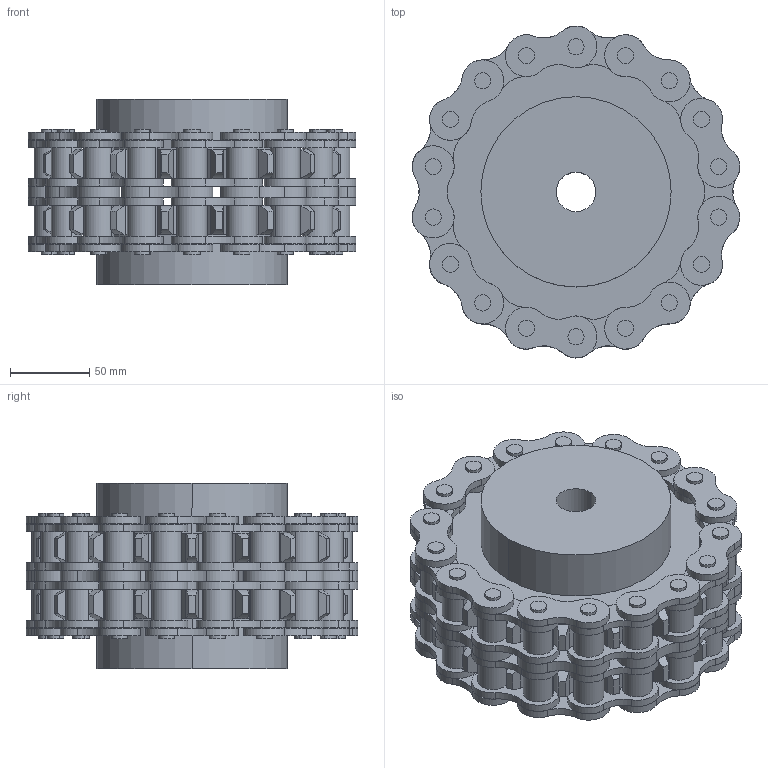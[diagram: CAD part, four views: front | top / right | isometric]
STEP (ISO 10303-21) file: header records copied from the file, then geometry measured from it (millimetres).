
FILE_DESCRIPTION((''),'2;1');
FILE_NAME('591-601-0018_SW0001','2021-01-25T',('Brieden'),('Brieden'),'PRO/ENGINEER BY PARAMETRIC TECHNOLOGY CORPORATION, 2010160','PRO/ENGINEER BY PARAMETRIC TECHNOLOGY CORPORATION, 2010160','');
FILE_SCHEMA(('AUTOMOTIVE_DESIGN { 1 0 10303 214 1 1 1 1 }'));
Length unit declared in the file: millimetre
Products named in the file (1): 591-601-0018_SW0001
Bounding box: 206.45 x 209.22 x 117 mm (x, y, z)
Volume: 2165580.3 mm3; surface area: 351856.1 mm2
Topology: 1 solids, 1 shells, 968 faces, 2484 edges, 1648 vertices
Faces by surface type: cylinder 584, plane 312, torus 72
Entity records: 32742 total; most frequent: CARTESIAN_POINT 5753, DIRECTION 5708, ORIENTED_EDGE 4968, EDGE_CURVE 2484, AXIS2_PLACEMENT_3D 2400, VERTEX_POINT 1648, CIRCLE 1432, EDGE_LOOP 1262
